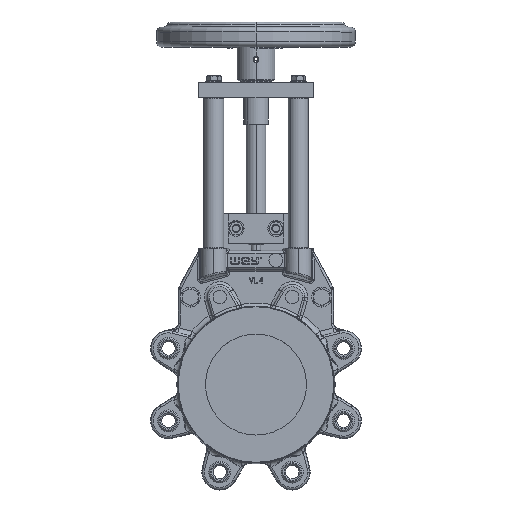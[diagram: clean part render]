
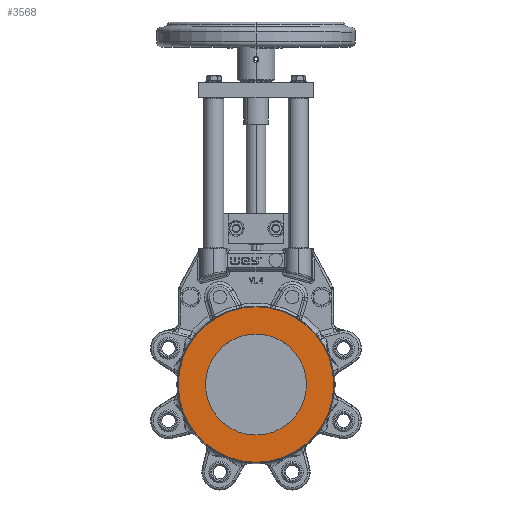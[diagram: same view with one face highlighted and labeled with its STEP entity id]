
A CAD part, top view. The second image highlights one B-rep face of the part: STEP entity #3568.
In plain terms, the highlighted planar face has unit normal (0, 0, 1).
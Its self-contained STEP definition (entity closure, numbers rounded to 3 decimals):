
#1374 = FACE_OUTER_BOUND ( 'NONE', #6185, .T. ) ;
#2955 = EDGE_CURVE ( 'NONE', #59532, #55182, #82207, .T. ) ;
#3568 = ADVANCED_FACE ( 'NONE', ( #47311, #1374 ), #82661, .F. ) ;
#3878 = CARTESIAN_POINT ( 'NONE',  ( 0., 0., 22.5 ) ) ;
#4491 = EDGE_CURVE ( 'NONE', #28074, #84171, #54370, .T. ) ;
#6185 = EDGE_LOOP ( 'NONE', ( #42440, #64821 ) ) ;
#11040 = EDGE_CURVE ( 'NONE', #55182, #59532, #30472, .T. ) ;
#18320 = ORIENTED_EDGE ( 'NONE', *, *, #63628, .F. ) ;
#20510 = DIRECTION ( 'NONE',  ( 0., 0., 1. ) ) ;
#21183 = CARTESIAN_POINT ( 'NONE',  ( 0., 0., 22.5 ) ) ;
#27754 = ORIENTED_EDGE ( 'NONE', *, *, #4491, .F. ) ;
#28074 = VERTEX_POINT ( 'NONE', #47110 ) ;
#28262 = DIRECTION ( 'NONE',  ( 0., 0., 1. ) ) ;
#28946 = AXIS2_PLACEMENT_3D ( 'NONE', #3878, #30835, #35690 ) ;
#30472 = CIRCLE ( 'NONE', #79839, 78.197 ) ;
#30600 = AXIS2_PLACEMENT_3D ( 'NONE', #61200, #20510, #73546 ) ;
#30835 = DIRECTION ( 'NONE',  ( 0., 0., 1. ) ) ;
#35690 = DIRECTION ( 'NONE',  ( 1., 0., 0. ) ) ;
#36651 = DIRECTION ( 'NONE',  ( 0., 1., 0. ) ) ;
#37549 = DIRECTION ( 'NONE',  ( 0., 0., -1. ) ) ;
#38531 = AXIS2_PLACEMENT_3D ( 'NONE', #59994, #65754, #66179 ) ;
#42440 = ORIENTED_EDGE ( 'NONE', *, *, #11040, .T. ) ;
#47110 = CARTESIAN_POINT ( 'NONE',  ( 50.8, 0., 22.5 ) ) ;
#47311 = FACE_BOUND ( 'NONE', #69700, .T. ) ;
#50800 = CARTESIAN_POINT ( 'NONE',  ( -106.069, 80., 22.5 ) ) ;
#54370 = CIRCLE ( 'NONE', #28946, 50.8 ) ;
#55182 = VERTEX_POINT ( 'NONE', #74239 ) ;
#59532 = VERTEX_POINT ( 'NONE', #82138 ) ;
#59994 = CARTESIAN_POINT ( 'NONE',  ( 0., 0., 22.5 ) ) ;
#61200 = CARTESIAN_POINT ( 'NONE',  ( 0., 0., 22.5 ) ) ;
#63628 = EDGE_CURVE ( 'NONE', #84171, #28074, #87018, .T. ) ;
#64821 = ORIENTED_EDGE ( 'NONE', *, *, #2955, .T. ) ;
#65754 = DIRECTION ( 'NONE',  ( 0., 0., 1. ) ) ;
#66179 = DIRECTION ( 'NONE',  ( 0., 1., 0. ) ) ;
#66407 = CARTESIAN_POINT ( 'NONE',  ( -50.8, 0., 22.5 ) ) ;
#69700 = EDGE_LOOP ( 'NONE', ( #27754, #18320 ) ) ;
#70887 = AXIS2_PLACEMENT_3D ( 'NONE', #50800, #37549, #36651 ) ;
#73546 = DIRECTION ( 'NONE',  ( 1., 0., 0. ) ) ;
#74239 = CARTESIAN_POINT ( 'NONE',  ( -78.197, 0., 22.5 ) ) ;
#79839 = AXIS2_PLACEMENT_3D ( 'NONE', #21183, #28262, #87034 ) ;
#82138 = CARTESIAN_POINT ( 'NONE',  ( 78.197, 0., 22.5 ) ) ;
#82207 = CIRCLE ( 'NONE', #38531, 78.197 ) ;
#82661 = PLANE ( 'NONE',  #70887 ) ;
#84171 = VERTEX_POINT ( 'NONE', #66407 ) ;
#87018 = CIRCLE ( 'NONE', #30600, 50.8 ) ;
#87034 = DIRECTION ( 'NONE',  ( 0., 1., 0. ) ) ;
